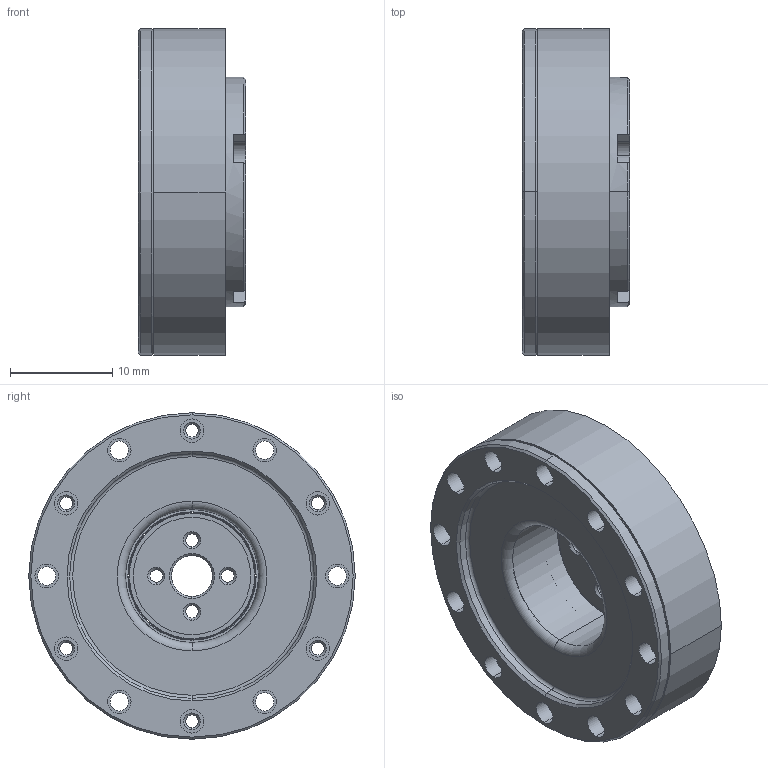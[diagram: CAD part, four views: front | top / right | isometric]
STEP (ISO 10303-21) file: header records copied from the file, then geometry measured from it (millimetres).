
FILE_DESCRIPTION (( 'STEP AP214' ), '1' );
FILE_NAME ('SHD-05-xxx-熬厒ん.STEP', '2020-11-03T02:46:49', ( 'PC' ), ( 'Microsoft' ), 'SwSTEP 2.0', 'SolidWorks 2016', '' );
FILE_SCHEMA (( 'AUTOMOTIVE_DESIGN' ));
Length unit declared in the file: millimetre
Products named in the file (18): SHD-05-交叉轴承内圈; SHD-05-交叉轴承外圈; SHD-05-xxx-熬厒ん; SHD-05-柔性轴承_預設; SHD-05-疏楷汜ん_蕼偞; SHD-05-柔性轴承外圈_預設; SHD-05-悵厥殤_蕼偞; SHD-05-1.2詩紩; SHD-05-柔性轴承内圈_預設; SHD-05-芧謫_蕼偞; 25x1.5 O型圈_預設; SHD-05-詩謫; SHD-05-柔轮SLDPRT_預設; SHD-05蝠脫粣創_蕼偞; 2.0-幗紩_蕼偞; B-2.0-幗紩_蕼偞; M1.6-蹟隊_蕼偞; SHD-05-蝠脫粣創黑芛
Assembly tree (71 placements, depth 4):
  SHD-05-xxx-熬厒ん
    SHD-05蝠脫粣創_蕼偞
      SHD-05-交叉轴承外圈
      SHD-05-交叉轴承内圈
      SHD-05-蝠脫粣創黑芛
      M1.6-蹟隊_蕼偞
      B-2.0-幗紩_蕼偞  x18
      2.0-幗紩_蕼偞  x18
    SHD-05-柔轮SLDPRT_預設
    SHD-05-詩謫
    25x1.5 O型圈_預設
    SHD-05-疏楷汜ん_蕼偞
      SHD-05-芧謫_蕼偞
      SHD-05-柔性轴承_預設
        SHD-05-柔性轴承内圈_預設
        SHD-05-1.2詩紩  x21
        SHD-05-悵厥殤_蕼偞
        SHD-05-柔性轴承外圈_預設
Bounding box: 10.5 x 32 x 32 mm (x, y, z)
Volume: 5073.7 mm3; surface area: 9226.2 mm2
Topology: 68 solids, 68 shells, 941 faces, 2253 edges, 1400 vertices
Faces by surface type: cylinder 339, plane 261, torus 166, cone 131, sphere 42, bspline 2
Entity records: 21418 total; most frequent: CARTESIAN_POINT 4183, DIRECTION 3450, ORIENTED_EDGE 3216, EDGE_CURVE 1608, AXIS2_PLACEMENT_3D 1344, VERTEX_POINT 1025, LINE 762, VECTOR 762
